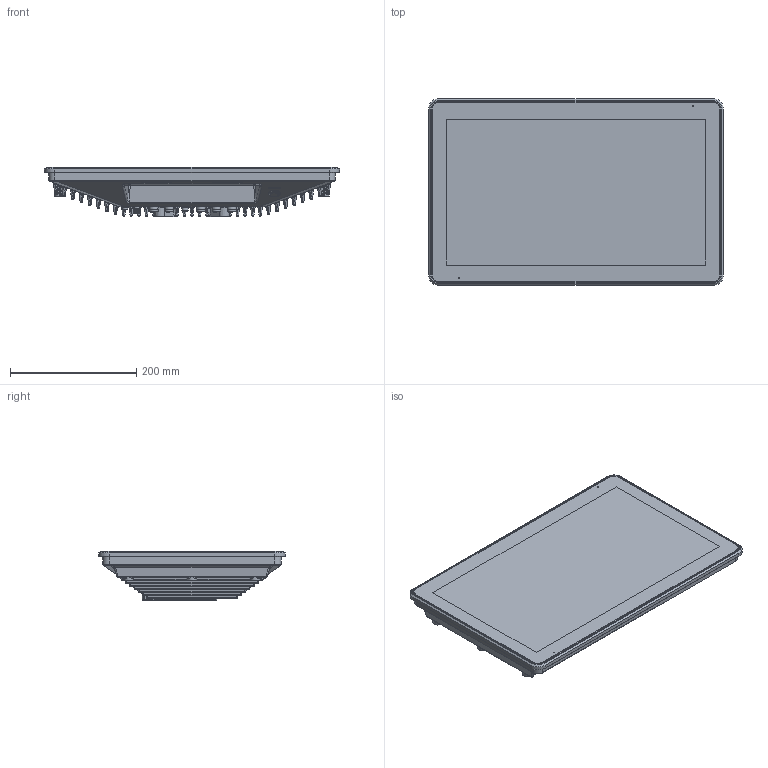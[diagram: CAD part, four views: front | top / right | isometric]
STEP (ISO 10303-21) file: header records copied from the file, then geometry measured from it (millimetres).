
FILE_DESCRIPTION(/* description */ (''),/* implementation_level */ '2;1');
FILE_NAME(/* name */ 'C:\SAPInventorWork\778-21968-00_EXTERN.stp',/* time_stamp */ '2025-01-31T11:53:22+01:00',/* author */ ('Aiple'),/* organization */ (''),/* preprocessor_version */ 'ST-DEVELOPER v18.1',/* originating_system */ 'Autodesk Inventor 2021',/* authorisation */ '');
FILE_SCHEMA (('AUTOMOTIVE_DESIGN { 1 0 10303 214 3 1 1 }'));
Products named in the file (1): 778-21968-00
Bounding box: 466.5 x 295.6 x 78.8 mm (x, y, z)
Volume: 6171692.6 mm3; surface area: 806426.3 mm2
Topology: 1 solids, 70 shells, 5589 faces, 14575 edges, 9256 vertices
Faces by surface type: plane 2290, bspline 1713, cylinder 1080, cone 262, sphere 136, torus 108
Full cylindrical faces by diameter (mm): 1.05 x27, 1.1 x2, 1.5 x4, 2 x1, 2.013 x2, 2.17 x4, 2.459 x12, 2.5 x2, 2.8 x4, 2.845 x2, 3.2 x2, 3.242 x7, 3.4 x2, 4.134 x8, 4.6 x2, 4.7 x2, 4.917 x8, 5 x1, 5.3 x1, 5.54 x2, 5.7 x1, 5.9 x2, 6.9 x1, 7.4 x1, 7.5 x5, 7.6 x1, 8 x4, 8.1 x1, 8.2 x5, 8.3 x1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
Entity records: 275318 total; most frequent: CARTESIAN_POINT 144185, ORIENTED_EDGE 28944, DIRECTION 22380, EDGE_CURVE 14472, VERTEX_POINT 9256, AXIS2_PLACEMENT_3D 7512, LINE 7356, VECTOR 7356
